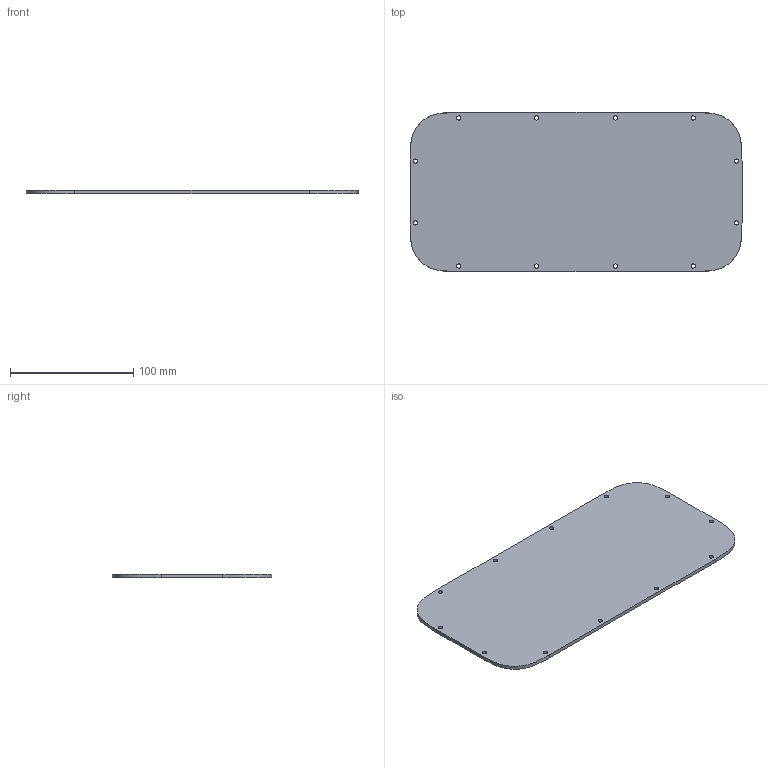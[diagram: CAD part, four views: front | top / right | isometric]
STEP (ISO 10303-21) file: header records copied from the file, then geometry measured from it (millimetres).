
FILE_DESCRIPTION(/* description */ (''),/* implementation_level */ '2;1');
FILE_NAME(/* name */ 'TOP PANEL.step',/* time_stamp */ '2024-02-28T17:17:09Z',/* author */ (''),/* organization */ (''),/* preprocessor_version */ 'ST-DEVELOPER v20',/* originating_system */ 'Autodesk Translation Framework v12.20.1.177',/* authorisation */ '');
FILE_SCHEMA (('AUTOMOTIVE_DESIGN { 1 0 10303 214 3 1 1 }'));
Length unit declared in the file: millimetre
Products named in the file (1): TOP PANEL
Bounding box: 269 x 129 x 3 mm (x, y, z)
Volume: 101482.4 mm3; surface area: 70286.3 mm2
Topology: 1 solids, 1 shells, 22 faces, 60 edges, 40 vertices
Faces by surface type: cylinder 12, plane 6, bspline 4
Full cylindrical faces by diameter (mm): 3.5 x12
Entity records: 1060 total; most frequent: CARTESIAN_POINT 415, ORIENTED_EDGE 120, DIRECTION 114, EDGE_CURVE 60, EDGE_LOOP 46, AXIS2_PLACEMENT_3D 43, VERTEX_POINT 40, LINE 28
